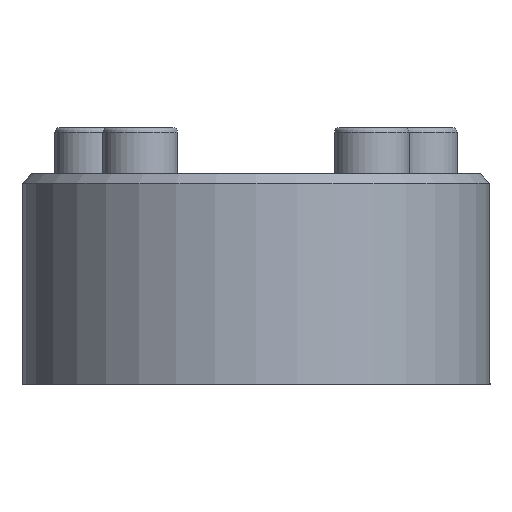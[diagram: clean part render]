
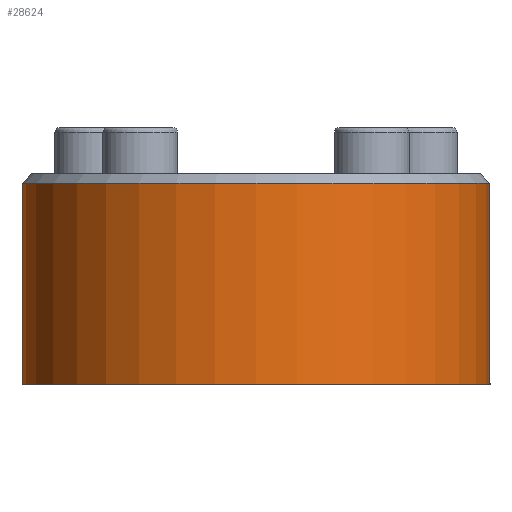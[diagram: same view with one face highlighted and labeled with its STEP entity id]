
A CAD part, front view. The second image highlights one B-rep face of the part: STEP entity #28624.
In plain terms, the highlighted cylindrical face has radius 50 mm (diameter 100 mm), a partial arc.
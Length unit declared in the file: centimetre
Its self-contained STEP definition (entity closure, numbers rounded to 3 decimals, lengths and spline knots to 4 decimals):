
#1716=CYLINDRICAL_SURFACE('',#29734,5.);
#4640=FACE_OUTER_BOUND('',#6291,.T.);
#6291=EDGE_LOOP('',(#26189,#26190,#26191,#26192));
#9085=LINE('',#48627,#11879);
#9086=LINE('',#48628,#11880);
#11879=VECTOR('',#34741,4.3);
#11880=VECTOR('',#34742,4.3);
#11960=CIRCLE('',#28933,5.);
#11965=CIRCLE('',#29735,5.);
#13342=VERTEX_POINT('',#39212);
#13344=VERTEX_POINT('',#39218);
#14569=VERTEX_POINT('',#48624);
#14570=VERTEX_POINT('',#48625);
#16086=EDGE_CURVE('',#13342,#13344,#11960,.T.);
#18445=EDGE_CURVE('',#14569,#14570,#11965,.T.);
#18446=EDGE_CURVE('',#14569,#13344,#9085,.T.);
#18447=EDGE_CURVE('',#14570,#13342,#9086,.T.);
#26189=ORIENTED_EDGE('',*,*,#18445,.F.);
#26190=ORIENTED_EDGE('',*,*,#18446,.T.);
#26191=ORIENTED_EDGE('',*,*,#16086,.F.);
#26192=ORIENTED_EDGE('',*,*,#18447,.F.);
#28624=ADVANCED_FACE('',(#4640),#1716,.T.);
#28933=AXIS2_PLACEMENT_3D('',#39220,#31293,#31294);
#29734=AXIS2_PLACEMENT_3D('',#48623,#34737,#34738);
#29735=AXIS2_PLACEMENT_3D('',#48626,#34739,#34740);
#31293=DIRECTION('center_axis',(0.,0.,
1.));
#31294=DIRECTION('ref_axis',(-1.,0.,0.));
#34737=DIRECTION('center_axis',(0.,0.,
1.));
#34738=DIRECTION('ref_axis',(1.,0.,0.));
#34739=DIRECTION('center_axis',(0.,0.,
-1.));
#34740=DIRECTION('ref_axis',(1.,0.,0.));
#34741=DIRECTION('',(0.,0.,1.));
#34742=DIRECTION('',(0.,0.,1.));
#39212=CARTESIAN_POINT('',(-5.,-28.5,1.55));
#39218=CARTESIAN_POINT('',(5.,-28.5,1.55));
#39220=CARTESIAN_POINT('Origin',(0.,-28.5,
1.55));
#48623=CARTESIAN_POINT('Origin',(0.,-28.5,
-2.75));
#48624=CARTESIAN_POINT('',(5.,-28.5,-2.75));
#48625=CARTESIAN_POINT('',(-5.,-28.5,-2.75));
#48626=CARTESIAN_POINT('Origin',(0.,-28.5,
-2.75));
#48627=CARTESIAN_POINT('',(5.,-28.5,-2.75));
#48628=CARTESIAN_POINT('',(-5.,-28.5,-2.75));
